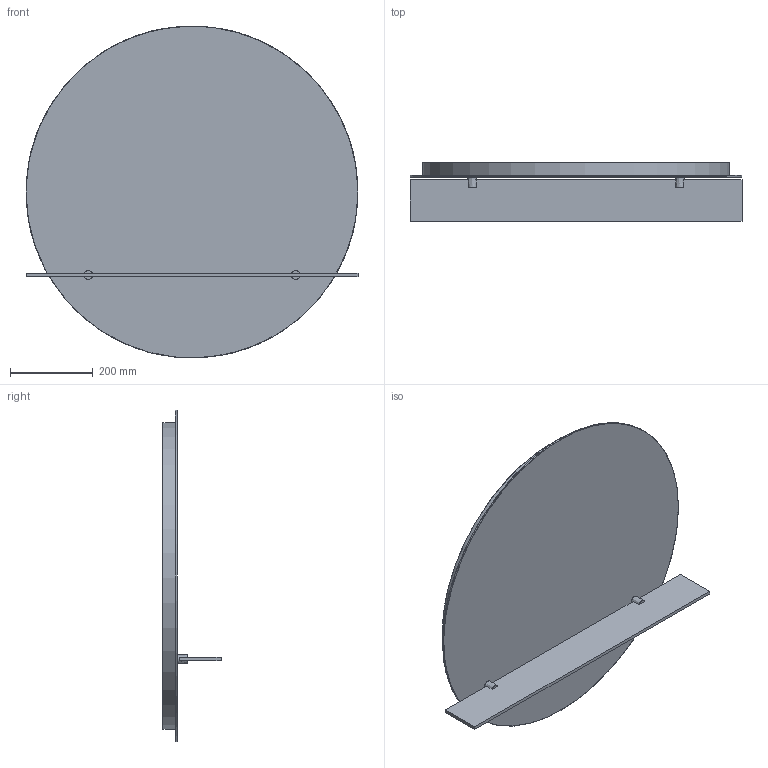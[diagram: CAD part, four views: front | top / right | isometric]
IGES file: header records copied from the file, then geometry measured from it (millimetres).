
Global section: file name: \\Archi-NAS\Comune\X GIOVANNI\SPECCHI\MIRR SHELF\MIRR SHELF_CIRCLE.igs; native system: Rhinoceros ( Feb 23 2021 ); preprocessor: Trout Lake IGES 012 Feb 23 2021; date: 230608.080432; units: millimetre
Bounding box: 800.01 x 140 x 800 mm (x, y, z)
Surface area: 2125780.5 mm2 (no closed solid volume)
Topology: 0 solids, 0 shells, 26 faces, 302 edges, 298 vertices
Faces by surface type: bspline 26
